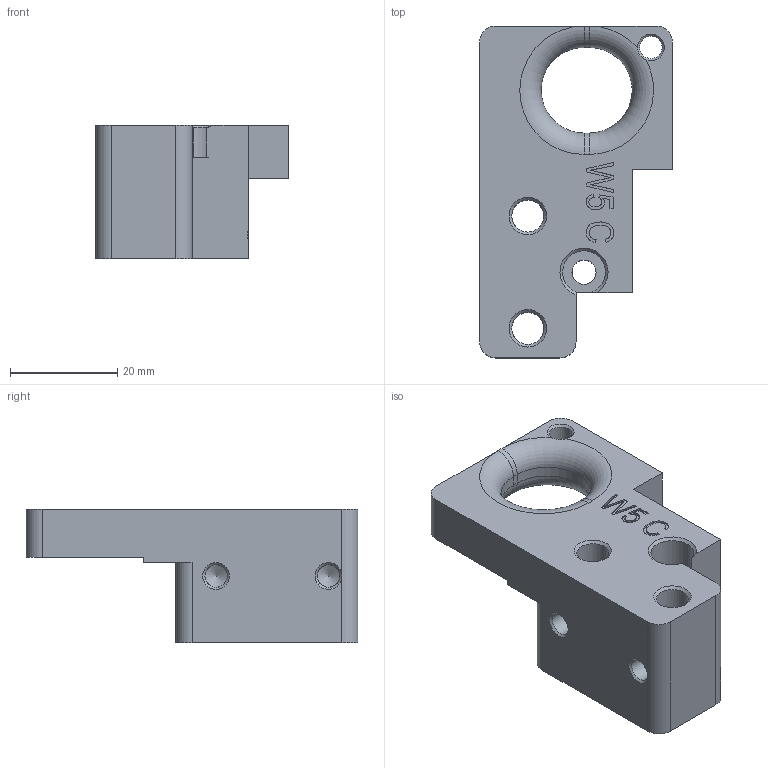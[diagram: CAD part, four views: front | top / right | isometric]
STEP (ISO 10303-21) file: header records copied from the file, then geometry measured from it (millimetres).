
FILE_DESCRIPTION(/* description */ (''),/* implementation_level */ '2;1');
FILE_NAME(/* name */ 'WHEELS-INSERT.04-con_modifica.stp',/* time_stamp */ '2018-10-12T16:57:26+02:00',/* author */ (''),/* organization */ (''),/* preprocessor_version */ 'ST-DEVELOPER v16.7',/* originating_system */ 'SIEMENS PLM Software NX 12.0',/* authorisation */ '');
FILE_SCHEMA (('AP203_CONFIGURATION_CONTROLLED_3D_DESIGN_OF_MECHANICAL_PARTS_AND_ASSEMBLIES_MIM_LF { 1 0 10303 403 2 1 2}'));
Length unit declared in the file: millimetre
Products named in the file (1): turc1934B35Eh69a
Bounding box: 36 x 62 x 25 mm (x, y, z)
Volume: 24997 mm3; surface area: 9108.5 mm2
Topology: 1 solids, 1 shells, 93 faces, 275 edges, 179 vertices
Faces by surface type: plane 36, cylinder 24, cone 17, extrusion 10, torus 6
Full cylindrical faces by diameter (mm): 3.3 x1, 4 x2, 4.2 x5, 4.5 x1, 6 x2
Entity records: 3573 total; most frequent: CARTESIAN_POINT 1271, ORIENTED_EDGE 430, DIRECTION 408, EDGE_CURVE 215, VERTEX_POINT 155, AXIS2_PLACEMENT_3D 155, EDGE_LOOP 135, VECTOR 98
